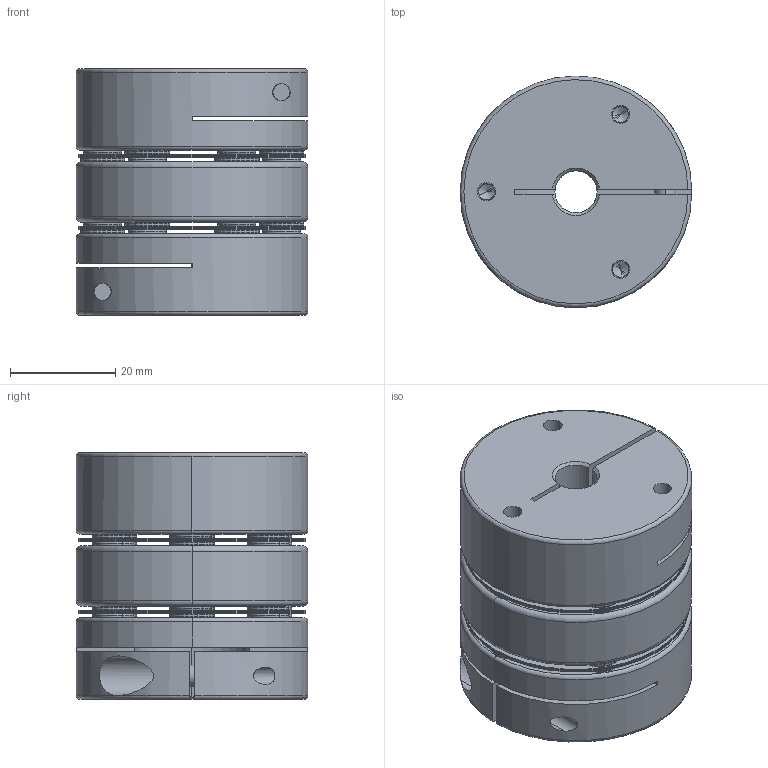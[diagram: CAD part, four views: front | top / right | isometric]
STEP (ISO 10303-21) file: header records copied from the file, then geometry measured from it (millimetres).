
FILE_DESCRIPTION (( 'STEP AP203' ), '1' );
FILE_NAME ('SADW-44C.STEP', '2020-09-10T09:04:05', ( '' ), ( '' ), 'SwSTEP 2.0', 'SolidWorks 2017', '' );
FILE_SCHEMA (( 'CONFIG_CONTROL_DESIGN' ));
Length unit declared in the file: metre
Products named in the file (1): SADW-44C
Bounding box: 44 x 44 x 46.9 mm (x, y, z)
Volume: 51678.9 mm3; surface area: 43962.5 mm2
Topology: 49 solids, 49 shells, 1100 faces, 2440 edges, 1446 vertices
Faces by surface type: cylinder 409, plane 310, cone 191, torus 190
Entity records: 30916 total; most frequent: DIRECTION 5989, CARTESIAN_POINT 5299, ORIENTED_EDGE 4808, AXIS2_PLACEMENT_3D 2508, EDGE_CURVE 2404, VERTEX_POINT 1446, CIRCLE 1407, EDGE_LOOP 1354
